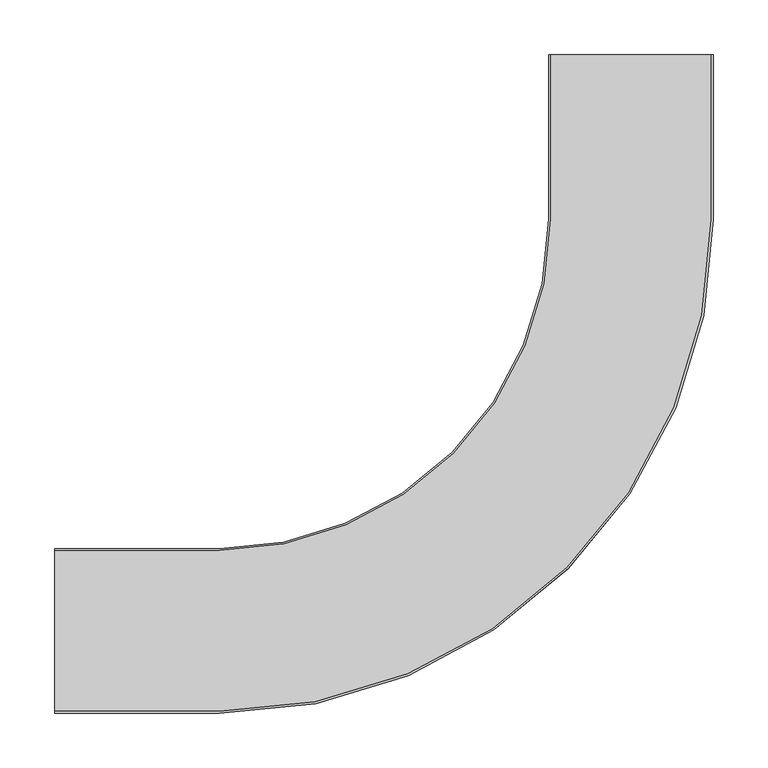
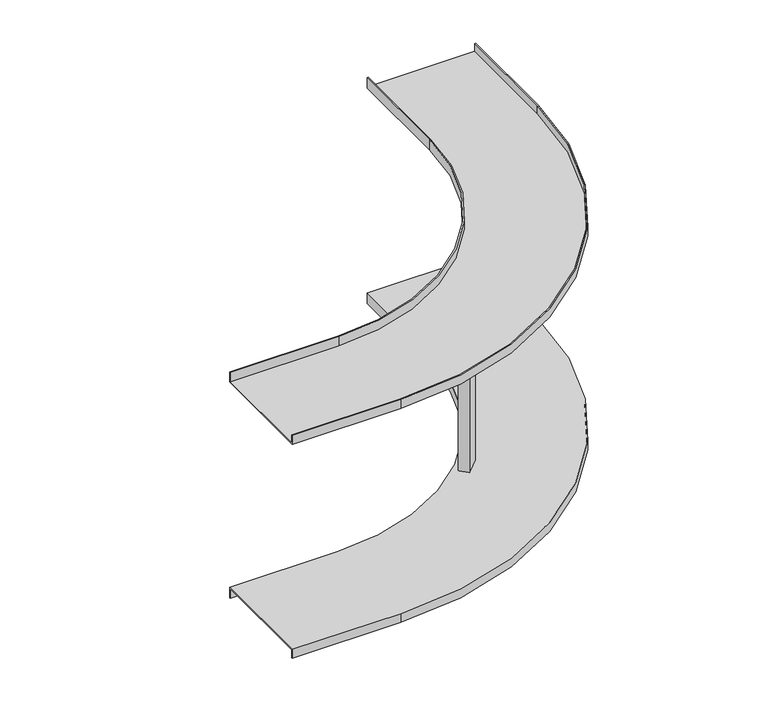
"""IFC4 building model written with IfcOpenShell, lengths in millimetres: cable carrier fitting geometry, CXBSL-CXBSLR_Vertical_Outside_Bend-Basortrav : Basortrav CXBSL-300 GC."""

from ifc_helpers import new_model, si_unit, frame, origin, place, context, project, spatial, polyline, circle_curve, outline, extrude, source, transform, mapped, element, save
from ifc_brep_helpers import plane_surface, cylinder_surface, revolved_surface, advanced_brep


def cable_carrier_fitting_7113fb72(model_context):
    return source(origin(), model_context, "Body", "SolidModel", [
        advanced_brep(
        [(-525.0, -75.0, 163.0), (-525.0, -73.5, 163.0), (-525.0, -73.5, 151.5), (-525.0, 73.5, 151.5), (-525.0, 73.5, 165.1346187), (-525.0, 75.0, 165.1346187), (-525.0, 75.0, 150.0), (-525.0, -75.0, 150.0), (-375.0, -75.0, 150.0), (-375.0, -75.0, 163.0), (-375.0, 75.0, 150.0), (-75.0, 375.0, 150.0), (-75.0, 525.0, 150.0), (75.0, 525.0, 150.0), (75.0, 375.0, 150.0), (-375.0, 75.0, 165.1346187), (-375.0, -73.5, 163.0), (-375.0, -73.5, 151.5), (75.0, 375.0, 163.0), (75.0, 525.0, 163.0), (73.5, 525.0, 163.0), (73.5, 375.0, 163.0), (-75.0, 375.0, 165.1346187), (73.5, 375.0, 151.5), (-75.0, 525.0, 165.1346187), (-73.5, 525.0, 165.1346187), (-73.5, 525.0, 151.5), (73.5, 525.0, 151.5), (-73.5, 375.0, 151.5), (-375.0, 73.5, 151.5), (-375.0, 73.5, 165.1346187), (-73.5, 375.0, 165.1346187)],
        [
            (0, 1),
            (1, 2),
            (2, 3),
            (3, 4),
            (4, 5),
            (5, 6),
            (6, 7),
            (7, 0),
            (7, 8),
            (8, 9),
            (9, 0),
            (6, 10),
            (10, 11, circle_curve(frame((-375.0, 375.0, 150.0), z_axis=(0.0, 0.0, 1.0), x_axis=(0.0, -1.0, 0.0)), 300.0)),
            (11, 12),
            (12, 13),
            (13, 14),
            (14, 8, circle_curve(frame((-375.0, 375.0, 150.0), z_axis=(0.0, 0.0, -1.0), x_axis=(0.0, -1.0, 0.0)), 450.0)),
            (5, 15),
            (15, 10),
            (1, 16),
            (16, 17),
            (17, 2),
            (9, 18, circle_curve(frame((-375.0, 375.0, 163.0), z_axis=(0.0, 0.0, 1.0), x_axis=(0.0, -1.0, 0.0)), 450.0)),
            (18, 19),
            (19, 20),
            (20, 21),
            (21, 16, circle_curve(frame((-375.0, 375.0, 163.0), z_axis=(0.0, 0.0, -1.0), x_axis=(0.0, -1.0, 0.0)), 448.5)),
            (14, 18),
            (15, 22, circle_curve(frame((-375.0, 375.0, 165.1346187), z_axis=(0.0, 0.0, 1.0), x_axis=(0.0, -1.0, 0.0)), 300.0)),
            (22, 11),
            (23, 17, circle_curve(frame((-375.0, 375.0, 151.5), z_axis=(0.0, 0.0, -1.0), x_axis=(0.0, -1.0, 0.0)), 448.5)),
            (21, 23),
            (19, 13),
            (12, 24),
            (24, 25),
            (25, 26),
            (26, 27),
            (27, 20),
            (22, 24),
            (27, 23),
            (26, 28),
            (28, 29, circle_curve(frame((-375.0, 375.0, 151.5), z_axis=(0.0, 0.0, -1.0), x_axis=(0.0, -1.0, 0.0)), 301.5)),
            (29, 3),
            (29, 30),
            (30, 4),
            (30, 31, circle_curve(frame((-375.0, 375.0, 165.1346187), z_axis=(0.0, 0.0, 1.0), x_axis=(0.0, -1.0, 0.0)), 301.5)),
            (31, 25),
            (28, 31),
        ],
        [
            plane_surface(frame((-525.0, 0.0, 0.0), z_axis=(-1.0, 0.0, 0.0), x_axis=(0.0, 0.0, 1.0))),
            plane_surface(frame((-525.0, -75.0, 150.0), z_axis=(0.0, -1.0, 0.0), x_axis=(1.0, 0.0, 0.0))),
            plane_surface(frame((-525.0, 75.0, 150.0), z_axis=(0.0, 0.0, -1.0), x_axis=(1.0, 0.0, 0.0))),
            plane_surface(frame((-525.0, 75.0, 165.1346187), z_axis=(0.0, 1.0, 0.0), x_axis=(1.0, 0.0, 0.0))),
            plane_surface(frame((-525.0, -73.5, 163.0), z_axis=(0.0, 1.0, 0.0), x_axis=(1.0, 0.0, 0.0))),
            plane_surface(frame((-525.0, -75.0, 163.0), z_axis=(0.0, 0.0, 1.0), x_axis=(1.0, 0.0, 0.0))),
            cylinder_surface(frame((-375.0, 375.0, 0.0), z_axis=(0.0, 0.0, 1.0), x_axis=(0.0, -1.0, 0.0)), 450.0),
            revolved_surface(polyline([(-375.0, 75.0, 165.1346187), (-375.0, 75.0, 150.0)]), (-375.0, 375.0, 0.0), (0.0, 0.0, 1.0)),
            revolved_surface(polyline([(-375.0, -73.5, 163.0), (-375.0, -73.5, 151.5)]), (-375.0, 375.0, 0.0), (0.0, 0.0, 1.0)),
            plane_surface(frame((0.0, 525.0, 0.0), z_axis=(0.0, 1.0, 0.0), x_axis=(0.0, 0.0, 1.0))),
            plane_surface(frame((75.0, 375.0, 150.0), z_axis=(1.0, 0.0, 0.0), x_axis=(0.0, 1.0, 0.0))),
            plane_surface(frame((-75.0, 375.0, 165.1346187), z_axis=(-1.0, 0.0, 0.0), x_axis=(0.0, 1.0, 0.0))),
            plane_surface(frame((73.5, 375.0, 163.0), z_axis=(-1.0, 0.0, 0.0), x_axis=(0.0, 1.0, 0.0))),
            plane_surface(frame((-525.0, -73.5, 151.5), z_axis=(0.0, 0.0, 1.0), x_axis=(1.0, 0.0, 0.0))),
            plane_surface(frame((-525.0, 73.5, 151.5), z_axis=(0.0, -1.0, 0.0), x_axis=(1.0, 0.0, 0.0))),
            plane_surface(frame((-525.0, 73.5, 165.1346187), z_axis=(0.0, 0.0, 1.0), x_axis=(1.0, 0.0, 0.0))),
            cylinder_surface(frame((-375.0, 375.0, 0.0), z_axis=(0.0, 0.0, 1.0), x_axis=(0.0, -1.0, 0.0)), 301.5),
            plane_surface(frame((-73.5, 375.0, 151.5), z_axis=(1.0, 0.0, 0.0), x_axis=(0.0, 1.0, 0.0))),
        ],
        [
            (0, [[1, 2, 3, 4, 5, 6, 7, 8]]),
            (1, [[-8, 9, 10, 11]]),
            (2, [[-7, 12, 13, 14, 15, 16, 17, -9]]),
            (3, [[-6, 18, 19, -12]]),
            (4, [[-2, 20, 21, 22]]),
            (5, [[-1, -11, 23, 24, 25, 26, 27, -20]]),
            (6, [[-23, -10, -17, 28]]),
            (7, [[-13, -19, 29, 30]]),
            (8, [[31, -21, -27, 32]]),
            (9, [[33, -15, 34, 35, 36, 37, 38, -25]]),
            (10, [[-28, -16, -33, -24]]),
            (11, [[-30, 39, -34, -14]]),
            (12, [[-32, -26, -38, 40]]),
            (13, [[-3, -22, -31, -40, -37, 41, 42, 43]]),
            (14, [[-4, -43, 44, 45]]),
            (15, [[-5, -45, 46, 47, -35, -39, -29, -18]]),
            (16, [[-46, -44, -42, 48]]),
            (17, [[-48, -41, -36, -47]]),
        ],
    ),
        advanced_brep(
        [(-525.0, -75.0, -163.0), (-525.0, -75.0, -150.0), (-525.0, 75.0, -150.0), (-525.0, 75.0, -165.1346187), (-525.0, 73.5, -165.1346187), (-525.0, 73.5, -151.5), (-525.0, -73.5, -151.5), (-525.0, -73.5, -163.0), (-375.0, -75.0, -163.0), (-375.0, -75.0, -150.0), (75.0, 375.0, -150.0), (75.0, 525.0, -150.0), (-75.0, 525.0, -150.0), (-75.0, 375.0, -150.0), (-375.0, 75.0, -150.0), (-375.0, 75.0, -165.1346187), (-375.0, -73.5, -151.5), (-375.0, -73.5, -163.0), (73.5, 375.0, -163.0), (73.5, 525.0, -163.0), (75.0, 525.0, -163.0), (75.0, 375.0, -163.0), (-75.0, 375.0, -165.1346187), (73.5, 375.0, -151.5), (73.5, 525.0, -151.5), (-73.5, 525.0, -151.5), (-73.5, 525.0, -165.1346187), (-75.0, 525.0, -165.1346187), (-73.5, 375.0, -165.1346187), (-375.0, 73.5, -165.1346187), (-375.0, 73.5, -151.5), (-73.5, 375.0, -151.5)],
        [
            (0, 1),
            (1, 2),
            (2, 3),
            (3, 4),
            (4, 5),
            (5, 6),
            (6, 7),
            (7, 0),
            (0, 8),
            (8, 9),
            (9, 1),
            (9, 10, circle_curve(frame((-375.0, 375.0, -150.0), z_axis=(0.0, 0.0, 1.0), x_axis=(0.0, -1.0, 0.0)), 450.0)),
            (10, 11),
            (11, 12),
            (12, 13),
            (13, 14, circle_curve(frame((-375.0, 375.0, -150.0), z_axis=(0.0, 0.0, -1.0), x_axis=(0.0, -1.0, 0.0)), 300.0)),
            (14, 2),
            (14, 15),
            (15, 3),
            (6, 16),
            (16, 17),
            (17, 7),
            (17, 18, circle_curve(frame((-375.0, 375.0, -163.0), z_axis=(0.0, 0.0, 1.0), x_axis=(0.0, -1.0, 0.0)), 448.5)),
            (18, 19),
            (19, 20),
            (20, 21),
            (21, 8, circle_curve(frame((-375.0, 375.0, -163.0), z_axis=(0.0, 0.0, -1.0), x_axis=(0.0, -1.0, 0.0)), 450.0)),
            (21, 10),
            (22, 15, circle_curve(frame((-375.0, 375.0, -165.1346187), z_axis=(0.0, 0.0, -1.0), x_axis=(0.0, -1.0, 0.0)), 300.0)),
            (13, 22),
            (16, 23, circle_curve(frame((-375.0, 375.0, -151.5), z_axis=(0.0, 0.0, 1.0), x_axis=(0.0, -1.0, 0.0)), 448.5)),
            (23, 18),
            (19, 24),
            (24, 25),
            (25, 26),
            (26, 27),
            (27, 12),
            (11, 20),
            (27, 22),
            (23, 24),
            (26, 28),
            (28, 29, circle_curve(frame((-375.0, 375.0, -165.1346187), z_axis=(0.0, 0.0, -1.0), x_axis=(0.0, -1.0, 0.0)), 301.5)),
            (29, 4),
            (29, 30),
            (30, 5),
            (30, 31, circle_curve(frame((-375.0, 375.0, -151.5), z_axis=(0.0, 0.0, 1.0), x_axis=(0.0, -1.0, 0.0)), 301.5)),
            (31, 25),
            (28, 31),
        ],
        [
            plane_surface(frame((-525.0, 0.0, 0.0), z_axis=(-1.0, 0.0, 0.0), x_axis=(0.0, 0.0, 1.0))),
            plane_surface(frame((-525.0, -75.0, -163.0), z_axis=(0.0, -1.0, 0.0), x_axis=(1.0, 0.0, 0.0))),
            plane_surface(frame((-525.0, -75.0, -150.0), z_axis=(0.0, 0.0, 1.0), x_axis=(1.0, 0.0, 0.0))),
            plane_surface(frame((-525.0, 75.0, -150.0), z_axis=(0.0, 1.0, 0.0), x_axis=(1.0, 0.0, 0.0))),
            plane_surface(frame((-525.0, -73.5, -151.5), z_axis=(0.0, 1.0, 0.0), x_axis=(1.0, 0.0, 0.0))),
            plane_surface(frame((-525.0, -73.5, -163.0), z_axis=(0.0, 0.0, -1.0), x_axis=(1.0, 0.0, 0.0))),
            cylinder_surface(frame((-375.0, 375.0, 0.0), z_axis=(0.0, 0.0, 1.0), x_axis=(0.0, -1.0, 0.0)), 450.0),
            revolved_surface(polyline([(-375.0, 75.0, -150.0), (-375.0, 75.0, -165.1346187)]), (-375.0, 375.0, 0.0), (0.0, 0.0, 1.0)),
            revolved_surface(polyline([(-375.0, -73.5, -151.5), (-375.0, -73.5, -163.0)]), (-375.0, 375.0, 0.0), (0.0, 0.0, 1.0)),
            plane_surface(frame((0.0, 525.0, 0.0), z_axis=(0.0, 1.0, 0.0), x_axis=(0.0, 0.0, 1.0))),
            plane_surface(frame((75.0, 375.0, -163.0), z_axis=(1.0, 0.0, 0.0), x_axis=(0.0, 1.0, 0.0))),
            plane_surface(frame((-75.0, 375.0, -150.0), z_axis=(-1.0, 0.0, 0.0), x_axis=(0.0, 1.0, 0.0))),
            plane_surface(frame((73.5, 375.0, -151.5), z_axis=(-1.0, 0.0, 0.0), x_axis=(0.0, 1.0, 0.0))),
            plane_surface(frame((-525.0, 75.0, -165.1346187), z_axis=(0.0, 0.0, -1.0), x_axis=(1.0, 0.0, 0.0))),
            plane_surface(frame((-525.0, 73.5, -165.1346187), z_axis=(0.0, -1.0, 0.0), x_axis=(1.0, 0.0, 0.0))),
            plane_surface(frame((-525.0, 73.5, -151.5), z_axis=(0.0, 0.0, -1.0), x_axis=(1.0, 0.0, 0.0))),
            cylinder_surface(frame((-375.0, 375.0, 0.0), z_axis=(0.0, 0.0, 1.0), x_axis=(0.0, -1.0, 0.0)), 301.5),
            plane_surface(frame((-73.5, 375.0, -165.1346187), z_axis=(1.0, 0.0, 0.0), x_axis=(0.0, 1.0, 0.0))),
        ],
        [
            (0, [[1, 2, 3, 4, 5, 6, 7, 8]]),
            (1, [[-1, 9, 10, 11]]),
            (2, [[-2, -11, 12, 13, 14, 15, 16, 17]]),
            (3, [[-3, -17, 18, 19]]),
            (4, [[-7, 20, 21, 22]]),
            (5, [[-8, -22, 23, 24, 25, 26, 27, -9]]),
            (6, [[-12, -10, -27, 28]]),
            (7, [[29, -18, -16, 30]]),
            (8, [[-23, -21, 31, 32]]),
            (9, [[-25, 33, 34, 35, 36, 37, -14, 38]]),
            (10, [[-28, -26, -38, -13]]),
            (11, [[-30, -15, -37, 39]]),
            (12, [[-32, 40, -33, -24]]),
            (13, [[-4, -19, -29, -39, -36, 41, 42, 43]]),
            (14, [[-5, -43, 44, 45]]),
            (15, [[-6, -45, 46, 47, -34, -40, -31, -20]]),
            (16, [[-46, -44, -42, 48]]),
            (17, [[-48, -41, -35, -47]]),
        ],
    ),
        extrude(outline(polyline([(-148.4429873, 166.4034995), (-138.5434924, 156.5040046), (-156.5040046, 138.5434924), (-166.4034995, 148.4429873), (-148.4429873, 166.4034995)])), frame((0.0, 0.0, -150.0), z_axis=(0.0, 0.0, 1.0), x_axis=(1.0, 0.0, 0.0)), (0.0, 0.0, 1.0), 300.0),
    ])


if __name__ == "__main__":
    model = new_model("IFC4")
    model_context = context("Model", 3, world=origin())
    ifc_project = project(units=[si_unit("LENGTHUNIT", "METRE", prefix="MILLI")], contexts=[model_context])
    site = spatial("IfcSite", under=ifc_project)
    building = spatial("IfcBuilding", under=site)
    placement = place(None, origin())
    cable_carrier_fitting_shape = cable_carrier_fitting_7113fb72(model_context)
    element("IfcCableCarrierFitting", 1, ObjectType="CXBSL-CXBSLR_Vertical_Outside_Bend-Basortrav : Basortrav CXBSL-300 GC", at=placement, inside=building, context=model_context, shape_type="MappedRepresentation", body=[
        mapped(cable_carrier_fitting_shape, transform((0.0, 0.0, 0.0), x_axis=(1.0, 0.0, 0.0), y_axis=(0.0, 1.0, 0.0), z_axis=(0.0, 0.0, 1.0))),
    ])
    save(model, "model.ifc")
